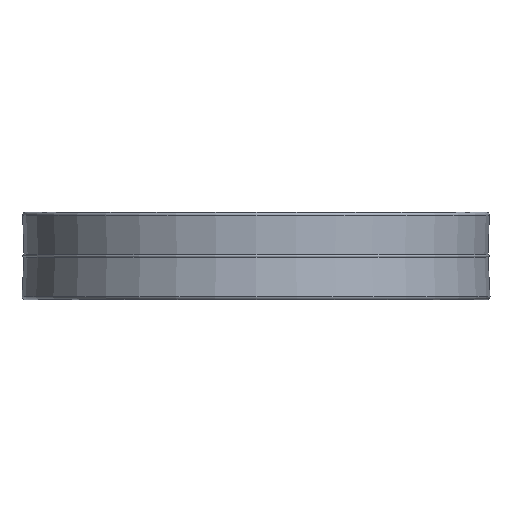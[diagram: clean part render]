
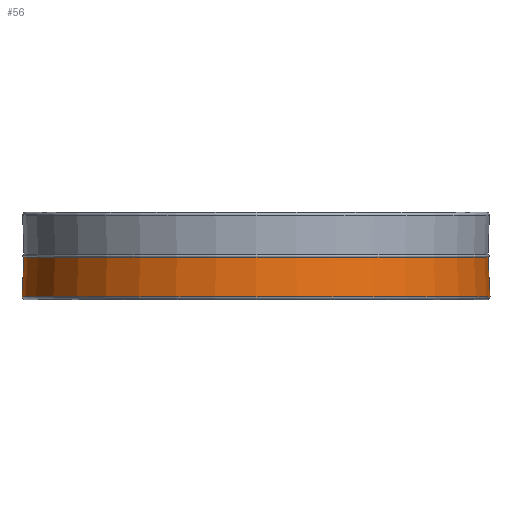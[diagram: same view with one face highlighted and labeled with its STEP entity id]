
A CAD part, front view. The second image highlights one B-rep face of the part: STEP entity #56.
In plain terms, the highlighted conical face has half-angle 3 degrees and reference radius 156.871 mm.
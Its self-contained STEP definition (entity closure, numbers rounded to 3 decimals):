
#12 = CARTESIAN_POINT ( 'NONE',  ( 0., 0., 89.284 ) ) ;
#13 = VERTEX_POINT ( 'NONE', #855 ) ;
#56 = ADVANCED_FACE ( 'NONE', ( #1120 ), #65, .T. ) ;
#65 = CONICAL_SURFACE ( 'NONE', #800, 156.872, 0.052 ) ;
#97 = VERTEX_POINT ( 'NONE', #939 ) ;
#114 = CARTESIAN_POINT ( 'NONE',  ( -156.872, 0., 63.114 ) ) ;
#231 = CARTESIAN_POINT ( 'NONE',  ( 0., 0., 63.114 ) ) ;
#281 = EDGE_CURVE ( 'NONE', #13, #740, #802, .T. ) ;
#304 = DIRECTION ( 'NONE',  ( 0., 0., 1. ) ) ;
#311 = DIRECTION ( 'NONE',  ( 1., 0., 0. ) ) ;
#400 = CARTESIAN_POINT ( 'NONE',  ( -155.5, 0., 89.284 ) ) ;
#433 = LINE ( 'NONE', #1078, #452 ) ;
#452 = VECTOR ( 'NONE', #898, 1000. ) ;
#466 = VERTEX_POINT ( 'NONE', #400 ) ;
#468 = DIRECTION ( 'NONE',  ( -0.052, 0., -0.999 ) ) ;
#473 = VECTOR ( 'NONE', #468, 1000. ) ;
#507 = DIRECTION ( 'NONE',  ( 0., 0., -1. ) ) ;
#569 = ORIENTED_EDGE ( 'NONE', *, *, #1113, .T. ) ;
#597 = AXIS2_PLACEMENT_3D ( 'NONE', #1067, #304, #682 ) ;
#657 = DIRECTION ( 'NONE',  ( 0., 0., 1. ) ) ;
#663 = EDGE_CURVE ( 'NONE', #97, #740, #433, .T. ) ;
#682 = DIRECTION ( 'NONE',  ( 1., 0., 0. ) ) ;
#740 = VERTEX_POINT ( 'NONE', #874 ) ;
#800 = AXIS2_PLACEMENT_3D ( 'NONE', #231, #507, #962 ) ;
#802 = CIRCLE ( 'NONE', #597, 156.872 ) ;
#834 = EDGE_CURVE ( 'NONE', #466, #97, #860, .T. ) ;
#849 = ORIENTED_EDGE ( 'NONE', *, *, #834, .F. ) ;
#855 = CARTESIAN_POINT ( 'NONE',  ( -156.872, 0., 63.114 ) ) ;
#860 = CIRCLE ( 'NONE', #992, 155.5 ) ;
#874 = CARTESIAN_POINT ( 'NONE',  ( 156.872, 0., 63.114 ) ) ;
#898 = DIRECTION ( 'NONE',  ( 0.052, 0., -0.999 ) ) ;
#918 = ORIENTED_EDGE ( 'NONE', *, *, #663, .F. ) ;
#939 = CARTESIAN_POINT ( 'NONE',  ( 155.5, 0., 89.284 ) ) ;
#943 = LINE ( 'NONE', #114, #473 ) ;
#962 = DIRECTION ( 'NONE',  ( -1., 0., 0. ) ) ;
#992 = AXIS2_PLACEMENT_3D ( 'NONE', #12, #657, #311 ) ;
#1034 = ORIENTED_EDGE ( 'NONE', *, *, #281, .T. ) ;
#1067 = CARTESIAN_POINT ( 'NONE',  ( 0., 0., 63.114 ) ) ;
#1078 = CARTESIAN_POINT ( 'NONE',  ( 156.872, 0., 63.114 ) ) ;
#1085 = EDGE_LOOP ( 'NONE', ( #918, #849, #569, #1034 ) ) ;
#1113 = EDGE_CURVE ( 'NONE', #466, #13, #943, .T. ) ;
#1120 = FACE_OUTER_BOUND ( 'NONE', #1085, .T. ) ;
